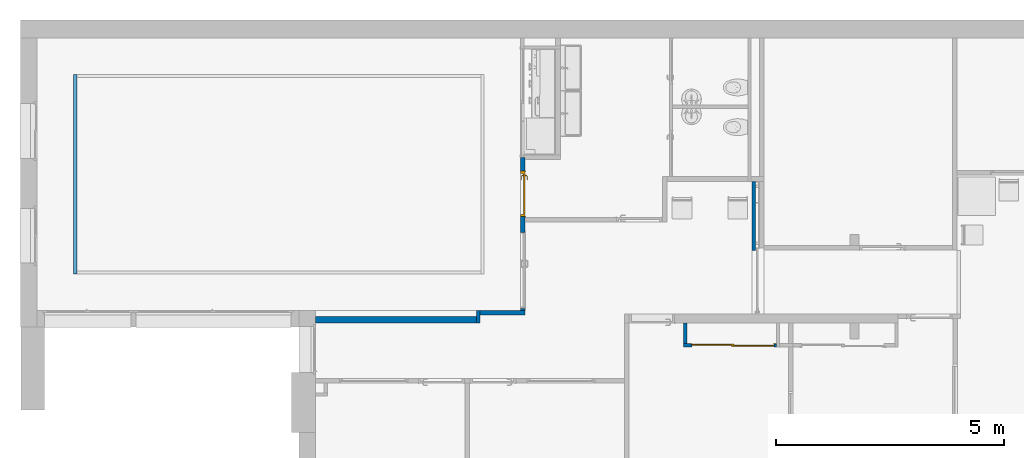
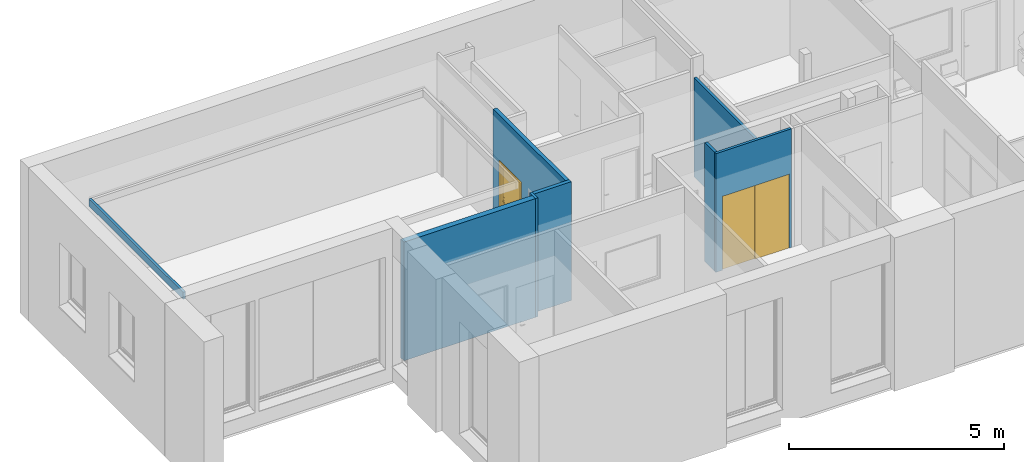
# One storey, part 8 of 32: 8 walls, 2 doors, 4 openings.
"""IFC2X3 building model written with IfcOpenShell, lengths in metres."""

from ifc_helpers import new_model, entity, si_unit, converted_unit, derived_unit, direction, frame, frame_2d, origin, origin_2d_with_axis, place, context, subcontext, project, spatial, polyline, circle_curve, parameter, trimmed, segment, composite_curve, rectangle, outline, extrude, faceted_brep, source, transform, mapped, material, material_list, layer, layer_set, layer_usage, type_object, type_shapes, element, fill, save


model = new_model("IFC2X3")

# Units and contexts
model_context = context("Model", 3, precision=1e-05, world=origin(), true_north=direction((6.12303176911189e-17, 1.0)))
plan_context = context("Plan", 3, precision=1e-05, world=origin(), true_north=direction((6.12303176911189e-17, 1.0)))
body_context = subcontext(model_context, "Body", "Model", "MODEL_VIEW")
ifc_project = project(units=[si_unit("LENGTHUNIT", "METRE"), si_unit("AREAUNIT", "SQUARE_METRE"), si_unit("VOLUMEUNIT", "CUBIC_METRE"), converted_unit("PLANEANGLEUNIT", "DEGREE", entity("IfcRatioMeasure", 0.0174532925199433), si_unit("PLANEANGLEUNIT", "RADIAN"), dimensions=[0, 0, 0, 0, 0, 0, 0]), si_unit("MASSUNIT", "GRAM", prefix="KILO"), derived_unit("MASSDENSITYUNIT", [(si_unit("MASSUNIT", "GRAM", prefix="KILO"), 1), (si_unit("LENGTHUNIT", "METRE"), -3)]), derived_unit("MOMENTOFINERTIAUNIT", [(si_unit("LENGTHUNIT", "METRE"), 4)]), si_unit("TIMEUNIT", "SECOND"), si_unit("FREQUENCYUNIT", "HERTZ"), si_unit("THERMODYNAMICTEMPERATUREUNIT", "DEGREE_CELSIUS"), derived_unit("THERMALTRANSMITTANCEUNIT", [(si_unit("MASSUNIT", "GRAM", prefix="KILO"), 1), (si_unit("THERMODYNAMICTEMPERATUREUNIT", "KELVIN"), -1), (si_unit("TIMEUNIT", "SECOND"), -3)]), derived_unit("VOLUMETRICFLOWRATEUNIT", [(si_unit("LENGTHUNIT", "METRE"), 3), (si_unit("TIMEUNIT", "SECOND"), -1)]), si_unit("ELECTRICCURRENTUNIT", "AMPERE"), si_unit("ELECTRICVOLTAGEUNIT", "VOLT"), si_unit("POWERUNIT", "WATT"), si_unit("FORCEUNIT", "NEWTON", prefix="KILO"), si_unit("ILLUMINANCEUNIT", "LUX"), si_unit("LUMINOUSFLUXUNIT", "LUMEN"), si_unit("LUMINOUSINTENSITYUNIT", "CANDELA"), derived_unit("USERDEFINED", [(si_unit("MASSUNIT", "GRAM", prefix="KILO"), -1), (si_unit("LENGTHUNIT", "METRE"), -2), (si_unit("TIMEUNIT", "SECOND"), 3), (si_unit("LUMINOUSFLUXUNIT", "LUMEN"), 1)]), derived_unit("LINEARVELOCITYUNIT", [(si_unit("LENGTHUNIT", "METRE"), 1), (si_unit("TIMEUNIT", "SECOND"), -1)]), si_unit("PRESSUREUNIT", "PASCAL"), derived_unit("USERDEFINED", [(si_unit("LENGTHUNIT", "METRE"), -2), (si_unit("MASSUNIT", "GRAM", prefix="KILO"), 1), (si_unit("TIMEUNIT", "SECOND"), -2)]), derived_unit("LINEARFORCEUNIT", [(si_unit("MASSUNIT", "GRAM", prefix="KILO"), 1), (si_unit("LENGTHUNIT", "METRE"), 1), (si_unit("TIMEUNIT", "SECOND"), -2), (si_unit("LENGTHUNIT", "METRE"), -1)]), derived_unit("PLANARFORCEUNIT", [(si_unit("MASSUNIT", "GRAM", prefix="KILO"), 1), (si_unit("LENGTHUNIT", "METRE"), 1), (si_unit("TIMEUNIT", "SECOND"), -2), (si_unit("LENGTHUNIT", "METRE"), -2)])], contexts=[model_context, plan_context])

# Site, building, storey
site_placement = place(None, origin())
site = spatial("IfcSite", under=ifc_project, at=site_placement, Name="Default", CompositionType="ELEMENT")
building_placement = place(site_placement, origin())
building = spatial("IfcBuilding", under=site, at=building_placement, CompositionType="ELEMENT")
storey_placement = place(building_placement, origin())
storey = spatial("IfcBuildingStorey", under=building, at=storey_placement, Name="0 Mairie RDC 0.00", CompositionType="ELEMENT", Elevation=-1.94916083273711e-14)

# Wall
ifc_material_1 = material(Name="Plâtre")
ifc_layer_1 = layer(ifc_material_1, 0.0125)
ifc_layer_2 = layer(ifc_material_1, 0.0125)
ifc_material_2 = material(Name="Maçonnerie - Isolant")
ifc_layer_3 = layer(ifc_material_2, 0.05)
ifc_layer_4 = layer(ifc_material_1, 0.0125)
ifc_layer_5 = layer(ifc_material_1, 0.0125)
ifc_layer_set_1 = layer_set([ifc_layer_1, ifc_layer_2, ifc_layer_3, ifc_layer_4, ifc_layer_5], Name="Mur de base:A cloison placostil 98 sèche")
ifc_layer_usage_1 = layer_usage(ifc_layer_set_1, "AXIS2", "NEGATIVE", 0.05)
wall_type_1 = type_object("IfcWallType", Name="Murs : Mur de base : A cloison placostil 98 sèche", PredefinedType="STANDARD", material=ifc_layer_set_1)
wall_1_placement = place(storey_placement, frame((-20.1763913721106, -8.0027608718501, 0.0)))
element("IfcWallStandardCase", 1, at=wall_1_placement, inside=storey, type_object=wall_type_1, material=ifc_layer_usage_1, Name="Murs : Mur de base : A cloison placostil 98 sèche", ObjectType="Mur de base:A cloison placostil 98 sèche", context=body_context, shape_type="SweptSolid", body=[
    extrude(rectangle(XDim=0.994209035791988, YDim=0.100000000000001, at=frame_2d((0.497104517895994, -1.04083408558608e-16), x_axis=(-1.0, 0.0))), origin(), (0.0, 0.0, 1.0), 3.37),
])

# Wall, openings, door
ifc_layer_usage_2 = layer_usage(ifc_layer_set_1, "AXIS2", "POSITIVE", -0.05)
wall_2_placement = place(storey_placement, frame((-19.2321823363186, -7.9527608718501, 0.0), z_axis=(0.0, 0.0, 1.0), x_axis=(0.0, 1.0, 0.0)))
wall_2 = element("IfcWallStandardCase", 2, at=wall_2_placement, inside=storey, type_object=wall_type_1, material=ifc_layer_usage_2, Name="Murs : Mur de base : A cloison placostil 98 sèche", ObjectType="Mur de base:A cloison placostil 98 sèche", context=body_context, shape_type="SweptSolid", body=[
    extrude(rectangle(XDim=3.35899712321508, YDim=0.0999999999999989, at=frame_2d((1.67949856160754, 1.70002900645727e-16), x_axis=(-1.0, 0.0))), origin(), (0.0, 0.0, 1.0), 3.37),
])
opening_1_placement = place(wall_2_placement, frame((0.0382996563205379, -0.0500000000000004, 0.0)))
element("IfcOpeningElement", 3, at=opening_1_placement, cuts=wall_2, Name="Portes : Doors-Door-sets- LAHET-LAH010013 : PAP 2V 1600 x 2040:1", ObjectType="Opening", context=body_context, shape_type="SweptSolid", body=[
    extrude(rectangle(XDim=2.07499999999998, YDim=1.67, at=frame_2d((1.03749999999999, 0.835), x_axis=(1.0, 0.0))), frame((0.0, 0.0, 0.0), z_axis=(0.0, 1.0, 0.0), x_axis=(0.0, 0.0, 1.0)), (0.0, 0.0, 1.0), 0.1),
])
opening_2_placement = place(wall_2_placement, frame((3.05499712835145, 0.0499999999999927, 0.0)))
opening_2 = element("IfcOpeningElement", 4, at=opening_2_placement, cuts=wall_2, Name="Portes : Int. Simple : PP (0.89m x 2.04m):1", ObjectType="Opening", context=body_context, shape_type="SweptSolid", body=[
    extrude(rectangle(XDim=2.075, YDim=1.0, at=frame_2d((1.0375, 0.5), x_axis=(1.0, 0.0))), frame((0.0, 0.0, 0.0), z_axis=(0.0, -1.0, 0.0), x_axis=(0.0, 0.0, 1.0)), (0.0, 0.0, 1.0), 0.1),
])
ifc_material_3 = material(Name="Finition Peinture - Blanc satiné")
ifc_material_4 = material(Name="Bois - Cadre de porte")
ifc_material_list_1 = material_list([ifc_material_3, ifc_material_4])
ifc_material_5 = material(Name="Bois - Panneau de porte")
ifc_material_list_2 = material_list([ifc_material_5, ifc_material_4, ifc_material_3])
door_style_1 = type_object("IfcDoorStyle", Name="Portes : Int. Simple : PP (0.89m x 2.04m)", ConstructionType="NOTDEFINED", OperationType="NOTDEFINED", ParameterTakesPrecedence=False, Sizeable=False, material=ifc_material_list_2)
shared_shape_1 = source(origin(), body_context, "Body", "SolidModel", [
    extrude(outline(composite_curve([segment(polyline([(-0.104999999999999, -0.02), (0.104999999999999, -0.0199999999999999)]), True, "CONTINUOUS"), segment(trimmed(circle_curve(frame_2d((0.0703589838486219, 0.0), x_axis=(0.0, 1.0)), 0.0399999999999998), [parameter(240.000000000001)], [parameter(300.0)], True, "PARAMETER"), True, "CONTINUOUS"), segment(polyline([(0.104999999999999, 0.0199999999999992), (-0.105, 0.0200000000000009)]), True, "CONTINUOUS"), segment(trimmed(circle_curve(frame_2d((-0.0703589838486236, 0.0), x_axis=(0.0, 1.0)), 0.0399999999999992), [parameter(59.9999999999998)], [parameter(120.0)], True, "PARAMETER"), True, "CONTINUOUS")], self_intersect=False)), frame((0.975000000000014, 0.0, 0.975000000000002), z_axis=(0.0, -1.0, 0.0), x_axis=(0.0, 0.0, 1.0)), (0.0, 0.0, 1.0), 0.005),
    extrude(outline(composite_curve([segment(polyline([(-0.105, -0.02), (0.105, -0.02)]), True, "CONTINUOUS"), segment(trimmed(circle_curve(frame_2d((0.0703589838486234, 0.0), x_axis=(0.0, -1.0)), 0.0399999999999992), [parameter(59.9999999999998)], [parameter(120.0)], True, "PARAMETER"), True, "CONTINUOUS"), segment(polyline([(0.104999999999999, 0.0200000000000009), (-0.105, 0.0199999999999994)]), True, "CONTINUOUS"), segment(trimmed(circle_curve(frame_2d((-0.0703589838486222, 0.0), x_axis=(0.0, -1.0)), 0.0399999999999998), [parameter(240.0)], [parameter(300.0)], True, "PARAMETER"), True, "CONTINUOUS")], self_intersect=False)), frame((0.975000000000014, 0.0449999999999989, 0.975000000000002), z_axis=(0.0, -1.0, 0.0), x_axis=(0.0, 0.0, -1.0)), (0.0, 0.0, 1.0), 0.00500000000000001),
    extrude(rectangle(XDim=0.93, YDim=0.04, at=origin_2d_with_axis()), frame((0.570000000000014, 0.02, 0.0), z_axis=(0.0, 0.0, 1.0), x_axis=(-1.0, 0.0, 0.0)), (0.0, 0.0, 1.0), 2.04),
    extrude(outline(polyline([(0.484999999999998, -1.03750000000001), (0.514999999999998, -1.03750000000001), (0.514999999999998, 1.0525), (-0.514999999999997, 1.0525), (-0.514999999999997, -1.0375), (-0.484999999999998, -1.03750000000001), (-0.484999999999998, 1.02250000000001), (0.484999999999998, 1.02250000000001), (0.484999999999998, -1.03750000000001)])), frame((0.570000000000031, 0.105000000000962, 1.03750000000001), z_axis=(0.0, -1.0, 0.0), x_axis=(1.0, 0.0, 0.0)), (0.0, 0.0, 1.0), 0.00500000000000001),
    extrude(outline(polyline([(0.484999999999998, -1.03750000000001), (0.514999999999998, -1.03750000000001), (0.514999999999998, 1.0525), (-0.514999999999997, 1.0525), (-0.514999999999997, -1.0375), (-0.484999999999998, -1.03750000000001), (-0.484999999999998, 1.02250000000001), (0.484999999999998, 1.02250000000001), (0.484999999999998, -1.03750000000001)])), frame((0.570000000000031, 0.0, 1.03750000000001), z_axis=(0.0, -1.0, 0.0), x_axis=(1.0, 0.0, 0.0)), (0.0, 0.0, 1.0), 0.005),
    faceted_brep([(0.972974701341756, -0.0050000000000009, 1.00778044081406), (0.977025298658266, -0.00500000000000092, 1.00778044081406), (0.981000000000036, -0.00500000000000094, 1.00699999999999), (0.981000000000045, -0.00500000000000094, 0.992999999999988), (0.977025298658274, -0.00500000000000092, 0.99221955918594), (0.972974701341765, -0.0050000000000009, 0.992219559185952), (0.968999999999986, -0.00500000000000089, 0.993000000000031), (0.968999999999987, -0.00500000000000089, 1.007), (0.977025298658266, -0.0310045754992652, 1.00778044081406), (0.981000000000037, -0.0326509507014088, 1.007), (0.972974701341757, -0.0293267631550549, 1.00778044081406), (0.959298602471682, -0.0430028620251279, 1.00778044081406), (0.960976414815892, -0.0470534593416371, 1.00778044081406), (0.968999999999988, -0.0276803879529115, 1.007), (0.968999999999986, -0.0276803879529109, 0.993000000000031), (0.972974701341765, -0.0293267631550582, 0.992219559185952), (0.977025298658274, -0.0310045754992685, 0.99221955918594), (0.960976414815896, -0.0470534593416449, 0.99221955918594), (0.959298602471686, -0.0430028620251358, 0.992219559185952), (0.981000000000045, -0.0326509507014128, 0.992999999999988), (0.962622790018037, -0.051028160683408, 1.007), (0.957652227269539, -0.0390281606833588, 1.007), (0.957652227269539, -0.0390281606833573, 0.993000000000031), (0.96262279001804, -0.0510281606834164, 0.992999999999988), (0.874981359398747, -0.0510281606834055, 1.007), (0.874981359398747, -0.0470534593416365, 1.00778044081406), (0.874981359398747, -0.0430028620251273, 1.00778044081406), (0.874981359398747, -0.0390281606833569, 1.00699999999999), (0.874981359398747, -0.0390281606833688, 0.993000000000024), (0.874981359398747, -0.0430028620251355, 0.992219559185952), (0.874981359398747, -0.0470534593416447, 0.99221955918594), (0.874981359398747, -0.0510281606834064, 0.992999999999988), (0.917139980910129, -0.045028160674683, 1.0078786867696), (0.922692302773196, -0.051028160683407, 1.007), (0.916316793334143, -0.039028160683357, 1.007), (0.916316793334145, -0.0390281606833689, 0.993000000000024), (0.917139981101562, -0.0450281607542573, 0.992121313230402), (0.922692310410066, -0.0510281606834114, 0.992999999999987)], [[[0, 1, 2, 3, 4, 5, 6, 7]], [[2, 1, 8, 9]], [[1, 0, 10, 11, 12, 8]], [[0, 7, 13, 10]], [[14, 13, 7, 6]], [[5, 15, 14, 6]], [[5, 4, 16, 17, 18, 15]], [[3, 19, 16, 4]], [[9, 19, 3, 2]], [[9, 8, 12, 20]], [[10, 13, 21, 11]], [[22, 21, 13, 14]], [[14, 15, 18, 22]], [[16, 19, 23, 17]], [[20, 23, 19, 9]], [[24, 25, 26, 27, 28, 29, 30, 31]], [[32, 25, 33]], [[33, 25, 24]], [[33, 20, 12]], [[11, 34, 32]], [[34, 11, 21]], [[27, 26, 34]], [[32, 26, 25]], [[32, 34, 26]], [[32, 33, 12]], [[11, 32, 12]], [[21, 22, 35, 28, 27, 34]], [[36, 29, 35]], [[30, 36, 37]], [[18, 35, 22]], [[29, 28, 35]], [[30, 37, 31]], [[37, 17, 23]], [[36, 17, 37]], [[36, 18, 17]], [[36, 35, 18]], [[29, 36, 30]], [[23, 20, 33, 24, 31, 37]]]),
    faceted_brep([(0.972974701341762, 0.0449999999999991, 0.992219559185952), (0.977025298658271, 0.0449999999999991, 0.99221955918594), (0.981000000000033, 0.044999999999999, 0.992999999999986), (0.981000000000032, 0.044999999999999, 1.007), (0.977025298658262, 0.0449999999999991, 1.00778044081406), (0.972974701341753, 0.0449999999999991, 1.00778044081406), (0.968999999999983, 0.0449999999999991, 1.007), (0.968999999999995, 0.0449999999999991, 0.993000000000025), (0.968999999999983, 0.067485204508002, 1.007), (0.968999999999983, 0.0674852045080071, 0.993000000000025), (0.972974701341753, 0.0691315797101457, 1.00778044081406), (0.977025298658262, 0.070809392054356, 1.00778044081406), (0.960838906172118, 0.0869957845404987, 1.00778044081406), (0.959161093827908, 0.0829451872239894, 1.00778044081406), (0.981000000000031, 0.0724557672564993, 1.007), (0.981000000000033, 0.0724557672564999, 0.992999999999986), (0.977025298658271, 0.0708093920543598, 0.99221955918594), (0.972974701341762, 0.0691315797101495, 0.992219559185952), (0.959161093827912, 0.0829451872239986, 0.992219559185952), (0.960838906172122, 0.0869957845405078, 0.99221955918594), (0.957514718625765, 0.0789704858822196, 1.007), (0.957514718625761, 0.0789704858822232, 0.993000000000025), (0.962485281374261, 0.0909704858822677, 1.007), (0.962485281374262, 0.0909704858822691, 0.992999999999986), (0.874954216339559, 0.0829451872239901, 1.00778044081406), (0.874954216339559, 0.0869957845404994, 1.00778044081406), (0.874954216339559, 0.0909704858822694, 1.007), (0.874954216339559, 0.0909704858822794, 0.992999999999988), (0.874954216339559, 0.086995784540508, 0.99221955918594), (0.874954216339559, 0.0829451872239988, 0.992219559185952), (0.874954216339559, 0.0789704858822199, 0.993000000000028), (0.874954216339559, 0.0789704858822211, 1.007), (0.916234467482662, 0.0789704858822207, 1.007), (0.916234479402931, 0.0789704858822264, 0.993000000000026), (0.917057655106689, 0.0849704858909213, 1.0078786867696), (0.922554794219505, 0.0909704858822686, 1.007), (0.922554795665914, 0.0909704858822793, 0.992999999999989), (0.917057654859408, 0.0849704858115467, 0.992121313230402)], [[[0, 1, 2, 3, 4, 5, 6, 7]], [[8, 9, 7, 6]], [[5, 10, 8, 6]], [[5, 4, 11, 12, 13, 10]], [[3, 14, 11, 4]], [[14, 3, 2, 15]], [[2, 1, 16, 15]], [[1, 0, 17, 18, 19, 16]], [[0, 7, 9, 17]], [[20, 21, 9, 8]], [[8, 10, 13, 20]], [[14, 22, 12, 11]], [[23, 22, 14, 15]], [[15, 16, 19, 23]], [[17, 9, 21, 18]], [[24, 25, 26, 27, 28, 29, 30, 31]], [[21, 20, 32, 31, 30, 33]], [[34, 24, 32]], [[25, 34, 35]], [[13, 32, 20]], [[24, 31, 32]], [[25, 35, 26]], [[35, 12, 22]], [[34, 12, 35]], [[34, 13, 12]], [[34, 32, 13]], [[24, 34, 25]], [[22, 23, 36, 27, 26, 35]], [[37, 28, 36]], [[36, 28, 27]], [[36, 23, 19]], [[18, 33, 37]], [[33, 18, 21]], [[30, 29, 33]], [[37, 29, 28]], [[37, 33, 29]], [[37, 36, 19]], [[18, 37, 19]]]),
    faceted_brep([(1.07000000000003, 0.0, 0.0), (1.03500000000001, 0.0, 0.0), (1.03500000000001, 0.040000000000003, 0.0), (1.02000000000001, 0.040000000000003, 0.0), (1.02000000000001, 0.100000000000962, 0.0), (1.07000000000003, 0.100000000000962, 0.0), (1.07000000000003, 0.100000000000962, 2.07500000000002), (1.07000000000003, 0.0, 2.07500000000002), (1.02000000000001, 0.100000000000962, 2.025), (0.120000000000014, 0.100000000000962, 2.025), (0.120000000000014, 0.100000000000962, 0.0), (0.0699999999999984, 0.100000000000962, 0.0), (0.0699999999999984, 0.100000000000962, 2.07500000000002), (1.02000000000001, 0.040000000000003, 2.025), (1.03500000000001, 0.040000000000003, 2.04), (0.105000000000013, 0.040000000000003, 2.04), (0.105000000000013, 0.040000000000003, 0.0), (0.120000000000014, 0.040000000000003, 0.0), (0.120000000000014, 0.040000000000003, 2.025), (1.03500000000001, 0.0, 2.04), (0.0699999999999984, 0.0, 2.07500000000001), (0.0699999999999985, 0.0, 0.0), (0.105000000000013, 0.0, 0.0), (0.105000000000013, 0.0, 2.04)], [[[0, 1, 2, 3, 4, 5]], [[5, 6, 7, 0]], [[4, 8, 9, 10, 11, 12, 6, 5]], [[3, 13, 8, 4]], [[2, 14, 15, 16, 17, 18, 13, 3]], [[1, 19, 14, 2]], [[0, 7, 20, 21, 22, 23, 19, 1]], [[12, 11, 21, 20]], [[21, 11, 10, 17, 16, 22]], [[18, 17, 10, 9]], [[23, 22, 16, 15]], [[6, 12, 20, 7]], [[13, 18, 9, 8]], [[19, 23, 15, 14]]]),
])
type_shapes(door_style_1, [shared_shape_1])
door_1_placement = place(opening_2_placement, frame((-1.07000000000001, -0.0999999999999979, 0.0)))
door_1 = element("IfcDoor", 5, at=door_1_placement, inside=storey, type_object=door_style_1, material=ifc_material_list_1, Name="Portes : Int. Simple : PP (0.89m x 2.04m)", ObjectType="Int. Simple:PP (0.89m x 2.04m)", OverallHeight=2.075, OverallWidth=1.0, context=body_context, shape_type="MappedRepresentation", body=[
    mapped(shared_shape_1, transform((0.0, 0.0, 0.0), scale=1.0)),
])
fill(opening_2, door_1)

# Wall, opening, door
ifc_layer_6 = layer(ifc_material_1, 0.01)
ifc_layer_7 = layer(ifc_material_2, 0.05)
ifc_layer_8 = layer(ifc_material_1, 0.01)
ifc_layer_set_2 = layer_set([ifc_layer_6, ifc_layer_7, ifc_layer_8], Name="Mur de base:A cloison placostil 72 sèche")
ifc_layer_usage_3 = layer_usage(ifc_layer_set_2, "AXIS2", "NEGATIVE", 0.035)
wall_type_2 = type_object("IfcWallType", Name="Murs : Mur de base : A cloison placostil 72 sèche", PredefinedType="STANDARD", material=ifc_layer_set_2)
wall_3_placement = place(storey_placement, frame((-15.7054461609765, -8.71777959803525, 0.0)))
wall_3 = element("IfcWallStandardCase", 6, at=wall_3_placement, inside=storey, type_object=wall_type_2, material=ifc_layer_usage_3, Name="Murs : Mur de base : A cloison placostil 72 sèche", ObjectType="Mur de base:A cloison placostil 72 sèche", context=body_context, shape_type="SweptSolid", body=[
    extrude(rectangle(XDim=2.03359633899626, YDim=0.0699999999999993, at=frame_2d((1.01679816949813, 0.0), x_axis=(-1.0, 0.0))), origin(), (0.0, 0.0, 1.0), 3.37),
])
opening_3_placement = place(wall_3_placement, frame((0.176798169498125, -0.0349999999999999, 0.0)))
opening_3 = element("IfcOpeningElement", 7, at=opening_3_placement, cuts=wall_3, Name="Portes : Placard coulissante - 2 panneaux : Placard coulissante - 2 panneaux 1.80:1", ObjectType="Opening", context=body_context, shape_type="SweptSolid", body=[
    extrude(rectangle(XDim=2.09999999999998, YDim=1.8, at=frame_2d((1.04999999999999, 0.9), x_axis=(1.0, 0.0))), frame((0.0, 0.0, 0.0), z_axis=(0.0, 1.0, 0.0), x_axis=(0.0, 0.0, 1.0)), (0.0, 0.0, 1.0), 0.07),
])
ifc_material_6 = material(Name="Placard - Profil")
ifc_material_7 = material(Name="Placard - Encadrement")
ifc_material_8 = material(Name="Placard - Porte")
ifc_material_list_3 = material_list([ifc_material_6, ifc_material_7, ifc_material_8])
ifc_material_list_4 = material_list([ifc_material_6, ifc_material_6, ifc_material_6, ifc_material_6, ifc_material_7, ifc_material_8, ifc_material_8])
door_style_2 = type_object("IfcDoorStyle", Name="Portes : Placard coulissante - 2 panneaux : Placard coulissante - 2 panneaux 1.80", ConstructionType="NOTDEFINED", OperationType="SLIDING_TO_RIGHT", ParameterTakesPrecedence=False, Sizeable=False, material=ifc_material_list_4)
shared_shape_2 = source(origin(), body_context, "Body", "SweptSolid", [
    extrude(outline(composite_curve([segment(polyline([(-0.0250000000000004, -0.00100000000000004), (0.0249999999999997, -0.00100000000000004)]), True, "CONTINUOUS"), segment(polyline([(0.0249999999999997, -0.00100000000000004), (0.0249999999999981, 0.00100000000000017)]), True, "CONTINUOUS"), segment(trimmed(circle_curve(frame_2d((0.0, -0.212860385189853), x_axis=(-1.0, 0.0)), 0.215316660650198), [parameter(263.332459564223)], [parameter(276.667540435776)], True, "PARAMETER"), True, "CONTINUOUS"), segment(polyline([(-0.0250000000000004, 0.00100000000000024), (-0.0250000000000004, -0.00100000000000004)]), True, "CONTINUOUS")], self_intersect=False)), frame((1.775, 0.0089999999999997, 0.0), z_axis=(0.0, 0.0, 1.0), x_axis=(-1.0, 0.0, 0.0)), (0.0, 0.0, 1.0), 2.1),
    extrude(outline(composite_curve([segment(polyline([(-0.0250000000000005, -0.00100000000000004), (0.0249999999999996, -0.00100000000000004)]), True, "CONTINUOUS"), segment(polyline([(0.0249999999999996, -0.00100000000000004), (0.0249999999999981, 0.00100000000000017)]), True, "CONTINUOUS"), segment(trimmed(circle_curve(frame_2d((0.0, -0.212860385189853), x_axis=(-1.0, 0.0)), 0.215316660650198), [parameter(263.332459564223)], [parameter(276.667540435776)], True, "PARAMETER"), True, "CONTINUOUS"), segment(polyline([(-0.0250000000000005, 0.00100000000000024), (-0.0250000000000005, -0.00100000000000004)]), True, "CONTINUOUS")], self_intersect=False)), frame((0.899999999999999, 0.00900000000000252, 0.0), z_axis=(0.0, 0.0, 1.0), x_axis=(-1.0, 0.0, 0.0)), (0.0, 0.0, 1.0), 2.1),
    extrude(outline(composite_curve([segment(polyline([(-0.0250000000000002, -0.00100000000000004), (0.0249999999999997, -0.00100000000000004)]), True, "CONTINUOUS"), segment(polyline([(0.0249999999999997, -0.00100000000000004), (0.0249999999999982, 0.00100000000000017)]), True, "CONTINUOUS"), segment(trimmed(circle_curve(frame_2d((0.0, -0.212860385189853), x_axis=(-1.0, 0.0)), 0.215316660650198), [parameter(263.332459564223)], [parameter(276.667540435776)], True, "PARAMETER"), True, "CONTINUOUS"), segment(polyline([(-0.0250000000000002, 0.00100000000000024), (-0.0250000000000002, -0.00100000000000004)]), True, "CONTINUOUS")], self_intersect=False)), frame((0.899999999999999, 0.0340000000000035, 0.0), z_axis=(0.0, 0.0, 1.0), x_axis=(-1.0, 0.0, 0.0)), (0.0, 0.0, 1.0), 2.1),
    extrude(outline(composite_curve([segment(polyline([(-0.0250000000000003, -0.00100000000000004), (0.0249999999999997, -0.00100000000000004)]), True, "CONTINUOUS"), segment(polyline([(0.0249999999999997, -0.00100000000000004), (0.0249999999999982, 0.00100000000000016)]), True, "CONTINUOUS"), segment(trimmed(circle_curve(frame_2d((0.0, -0.212860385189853), x_axis=(-1.0, 0.0)), 0.215316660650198), [parameter(263.332459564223)], [parameter(276.667540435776)], True, "PARAMETER"), True, "CONTINUOUS"), segment(polyline([(-0.0250000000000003, 0.00100000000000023), (-0.0250000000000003, -0.00100000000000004)]), True, "CONTINUOUS")], self_intersect=False)), frame((0.0249999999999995, 0.0340000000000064, 0.0), z_axis=(0.0, 0.0, 1.0), x_axis=(-1.0, 0.0, 0.0)), (0.0, 0.0, 1.0), 2.1),
    extrude(outline(polyline([(-1.06149999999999, -0.948), (1.08649999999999, -0.948), (1.08649999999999, 0.948), (-1.06149999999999, 0.948), (-1.06149999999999, 0.898), (1.03649999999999, 0.898), (1.03649999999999, -0.898), (-1.06149999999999, -0.898), (-1.06149999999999, -0.948)])), frame((0.9, -0.00300000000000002, 1.06149999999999), z_axis=(0.0, 1.0, 0.0), x_axis=(0.0, 0.0, 1.0)), (0.0, 0.0, 1.0), 0.00300000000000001),
    extrude(rectangle(XDim=0.020000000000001, YDim=0.925000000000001, at=frame_2d((0.0, -8.32667268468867e-17), x_axis=(1.0, 0.0))), frame((1.3375, 0.0200000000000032, 0.0), z_axis=(0.0, 0.0, 1.0), x_axis=(0.0, 1.0, 0.0)), (0.0, 0.0, 1.0), 2.1),
    extrude(rectangle(XDim=0.02, YDim=0.924999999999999, at=origin_2d_with_axis()), frame((0.462499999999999, 0.0450000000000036, 0.0), z_axis=(0.0, 0.0, 1.0), x_axis=(0.0, 1.0, 0.0)), (0.0, 0.0, 1.0), 2.1),
])
type_shapes(door_style_2, [shared_shape_2])
door_2_placement = place(opening_3_placement, frame((1.8, 0.0700000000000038, 0.0), z_axis=(0.0, 0.0, 1.0), x_axis=(-1.0, 0.0, 0.0)))
door_2 = element("IfcDoor", 8, at=door_2_placement, inside=storey, type_object=door_style_2, material=ifc_material_list_3, Name="Portes : Placard coulissante - 2 panneaux : Placard coulissante - 2 panneaux 1.80", ObjectType="Placard coulissante - 2 panneaux:Placard coulissante - 2 panneaux 1.80", OverallHeight=2.09999999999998, OverallWidth=1.8, context=body_context, shape_type="MappedRepresentation", body=[
    mapped(shared_shape_2, transform((0.0, 0.0, 0.0), scale=1.0)),
])
fill(opening_3, door_2)

# Walls
ifc_layer_usage_4 = layer_usage(ifc_layer_set_2, "AXIS2", "NEGATIVE", 0.035)
wall_4_placement = place(storey_placement, frame((-15.6704461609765, -8.23276374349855, 0.0), z_axis=(0.0, 0.0, 1.0), x_axis=(0.0, -1.0, 0.0)))
element("IfcWallStandardCase", 9, at=wall_4_placement, inside=storey, type_object=wall_type_2, material=ifc_layer_usage_4, Name="Murs : Mur de base : A cloison placostil 72 sèche", ObjectType="Mur de base:A cloison placostil 72 sèche", context=body_context, shape_type="SweptSolid", body=[
    extrude(rectangle(XDim=0.450015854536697, YDim=0.0700000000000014, at=frame_2d((0.225007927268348, 5.55111512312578e-16), x_axis=(-1.0, 0.0))), origin(), (0.0, 0.0, 1.0), 3.37),
])
ifc_layer_usage_5 = layer_usage(ifc_layer_set_2, "AXIS2", "POSITIVE", -0.035)
wall_5_placement = place(storey_placement, frame((-20.2113913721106, -7.9527608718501, 0.0), z_axis=(0.0, 0.0, 1.0), x_axis=(0.0, -1.0, 0.0)))
element("IfcWallStandardCase", 10, at=wall_5_placement, inside=storey, type_object=wall_type_2, material=ifc_layer_usage_5, Name="Murs : Mur de base : A cloison placostil 72 sèche", ObjectType="Mur de base:A cloison placostil 72 sèche", context=body_context, shape_type="SweptSolid", body=[
    extrude(rectangle(XDim=0.277596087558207, YDim=0.0700000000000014, at=frame_2d((0.138798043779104, 0.0), x_axis=(-1.0, 0.0))), origin(), (0.0, 0.0, 1.0), 3.37),
])

# Wall, opening
ifc_layer_usage_6 = layer_usage(ifc_layer_set_2, "AXIS2", "NEGATIVE", 0.035)
wall_6_placement = place(storey_placement, frame((-14.1676238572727, -8.03278670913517, 0.0), z_axis=(0.0, 0.0, 1.0), x_axis=(0.0, 1.0, 0.0)))
wall_6 = element("IfcWallStandardCase", 11, at=wall_6_placement, inside=storey, type_object=wall_type_2, material=ifc_layer_usage_6, Name="Murs : Mur de base : A cloison placostil 72 sèche", ObjectType="Mur de base:A cloison placostil 72 sèche", context=body_context, shape_type="SweptSolid", body=[
    extrude(rectangle(XDim=2.91286478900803, YDim=0.0700000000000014, at=frame_2d((1.45643239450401, 0.0), x_axis=(-1.0, 0.0))), origin(), (0.0, 0.0, 1.0), 2.8),
])
opening_4_placement = place(wall_6_placement, origin())
element("IfcOpeningElement", 12, at=opening_4_placement, cuts=wall_6, Name="Mur de base:A cloison placostil 72 sèche", ObjectType="Opening", context=body_context, shape_type="SweptSolid", body=[
    extrude(rectangle(XDim=1.32000000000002, YDim=1.39900423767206, at=frame_2d((0.0, -5.55111512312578e-16), x_axis=(1.0, 0.0))), frame((0.699502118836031, 0.0350000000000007, 0.660000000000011), z_axis=(0.0, -1.0, 0.0), x_axis=(0.0, 0.0, 1.0)), (0.0, 0.0, 1.0), 0.07),
])

# Walls
ifc_layer_usage_7 = layer_usage(ifc_layer_set_2, "AXIS2", "POSITIVE", -0.035)
wall_7_placement = place(storey_placement, frame((-29.0520149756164, -7.1530211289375, 2.95), z_axis=(0.0, 0.0, 1.0), x_axis=(0.0, 1.0, 0.0)))
element("IfcWallStandardCase", 13, at=wall_7_placement, inside=storey, type_object=wall_type_2, material=ifc_layer_usage_7, Name="Murs : Mur de base : A cloison placostil 72 sèche", ObjectType="Mur de base:A cloison placostil 72 sèche", context=body_context, shape_type="SweptSolid", body=[
    extrude(rectangle(XDim=4.38025738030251, YDim=0.0700000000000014, at=frame_2d((2.19012869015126, 0.0), x_axis=(-1.0, 0.0))), origin(), (0.0, 0.0, 1.0), 0.2),
])
ifc_layer_9 = layer(ifc_material_1, 0.0125)
ifc_layer_10 = layer(ifc_material_1, 0.0125)
ifc_layer_11 = layer(ifc_material_2, 0.05)
ifc_layer_12 = layer(ifc_material_2, 0.05)
ifc_layer_13 = layer(ifc_material_1, 0.0125)
ifc_layer_14 = layer(ifc_material_1, 0.0125)
ifc_layer_set_3 = layer_set([ifc_layer_9, ifc_layer_10, ifc_layer_11, ifc_layer_12, ifc_layer_13, ifc_layer_14], Name="Mur de base:A cloison placostil 140 sèche")
ifc_layer_usage_8 = layer_usage(ifc_layer_set_3, "AXIS2", "NEGATIVE", 0.075)
wall_type_3 = type_object("IfcWallType", Name="Murs : Mur de base : A cloison placostil 140 sèche", PredefinedType="STANDARD", material=ifc_layer_set_3)
wall_8_placement = place(storey_placement, frame((-23.7782803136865, -8.15535695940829, 0.0)))
element("IfcWallStandardCase", 14, at=wall_8_placement, inside=storey, type_object=wall_type_3, material=ifc_layer_usage_8, Name="Murs : Mur de base : A cloison placostil 140 sèche", ObjectType="Mur de base:A cloison placostil 140 sèche", context=body_context, shape_type="SweptSolid", body=[
    extrude(rectangle(XDim=3.53188894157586, YDim=0.150000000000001, at=frame_2d((1.76594447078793, -2.77555756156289e-17), x_axis=(-1.0, 0.0))), origin(), (0.0, 0.0, 1.0), 3.37),
])

save(model, "model.ifc")
